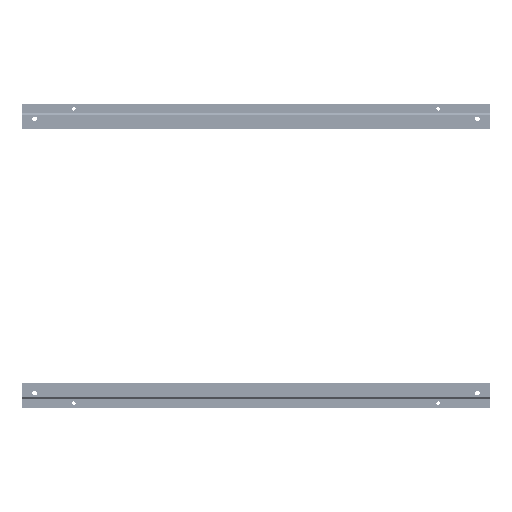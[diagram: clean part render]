
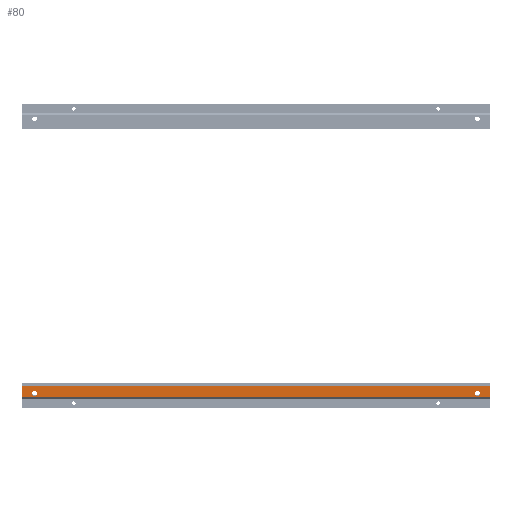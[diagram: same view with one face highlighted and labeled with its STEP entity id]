
A CAD part, left-side view. The second image highlights one B-rep face of the part: STEP entity #80.
In plain terms, the highlighted planar face has unit normal (-1, 0, 0).
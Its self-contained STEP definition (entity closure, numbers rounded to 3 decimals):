
#51 = EDGE_CURVE('',#52,#52,#54,.T.);
#52 = VERTEX_POINT('',#53);
#53 = CARTESIAN_POINT('',(-31.7,875.,-15.85));
#54 = CIRCLE('',#55,5.);
#55 = AXIS2_PLACEMENT_3D('',#56,#57,#58);
#56 = CARTESIAN_POINT('',(-31.7,875.,-20.85));
#57 = DIRECTION('',(-1.,0.,0.));
#58 = DIRECTION('',(0.,0.,1.));
#80 = ADVANCED_FACE('',(#81,#84,#95),#129,.F.);
#81 = FACE_BOUND('',#82,.F.);
#82 = EDGE_LOOP('',(#83));
#83 = ORIENTED_EDGE('',*,*,#51,.T.);
#84 = FACE_BOUND('',#85,.F.);
#85 = EDGE_LOOP('',(#86));
#86 = ORIENTED_EDGE('',*,*,#87,.F.);
#87 = EDGE_CURVE('',#88,#88,#90,.T.);
#88 = VERTEX_POINT('',#89);
#89 = CARTESIAN_POINT('',(-31.7,24.,-15.85));
#90 = CIRCLE('',#91,5.);
#91 = AXIS2_PLACEMENT_3D('',#92,#93,#94);
#92 = CARTESIAN_POINT('',(-31.7,24.,-20.85));
#93 = DIRECTION('',(1.,0.,-0.));
#94 = DIRECTION('',(0.,0.,1.));
#95 = FACE_BOUND('',#96,.F.);
#96 = EDGE_LOOP('',(#97,#107,#115,#123));
#97 = ORIENTED_EDGE('',*,*,#98,.F.);
#98 = EDGE_CURVE('',#99,#101,#103,.T.);
#99 = VERTEX_POINT('',#100);
#100 = CARTESIAN_POINT('',(-31.7,0.,-28.081));
#101 = VERTEX_POINT('',#102);
#102 = CARTESIAN_POINT('',(-31.7,0.,-7.2));
#103 = LINE('',#104,#105);
#104 = CARTESIAN_POINT('',(-31.7,0.,-28.081));
#105 = VECTOR('',#106,1.);
#106 = DIRECTION('',(0.,0.,1.));
#107 = ORIENTED_EDGE('',*,*,#108,.T.);
#108 = EDGE_CURVE('',#99,#109,#111,.T.);
#109 = VERTEX_POINT('',#110);
#110 = CARTESIAN_POINT('',(-31.7,899.,-28.081));
#111 = LINE('',#112,#113);
#112 = CARTESIAN_POINT('',(-31.7,899.,-28.081));
#113 = VECTOR('',#114,1.);
#114 = DIRECTION('',(0.,1.,0.));
#115 = ORIENTED_EDGE('',*,*,#116,.F.);
#116 = EDGE_CURVE('',#117,#109,#119,.T.);
#117 = VERTEX_POINT('',#118);
#118 = CARTESIAN_POINT('',(-31.7,899.,-7.2));
#119 = LINE('',#120,#121);
#120 = CARTESIAN_POINT('',(-31.7,899.,-7.2));
#121 = VECTOR('',#122,1.);
#122 = DIRECTION('',(0.,0.,-1.));
#123 = ORIENTED_EDGE('',*,*,#124,.F.);
#124 = EDGE_CURVE('',#101,#117,#125,.T.);
#125 = LINE('',#126,#127);
#126 = CARTESIAN_POINT('',(-31.7,899.,-7.2));
#127 = VECTOR('',#128,1.);
#128 = DIRECTION('',(0.,1.,0.));
#129 = PLANE('',#130);
#130 = AXIS2_PLACEMENT_3D('',#131,#132,#133);
#131 = CARTESIAN_POINT('',(-31.7,899.,-7.2));
#132 = DIRECTION('',(1.,-0.,0.));
#133 = DIRECTION('',(0.,0.,-1.));
